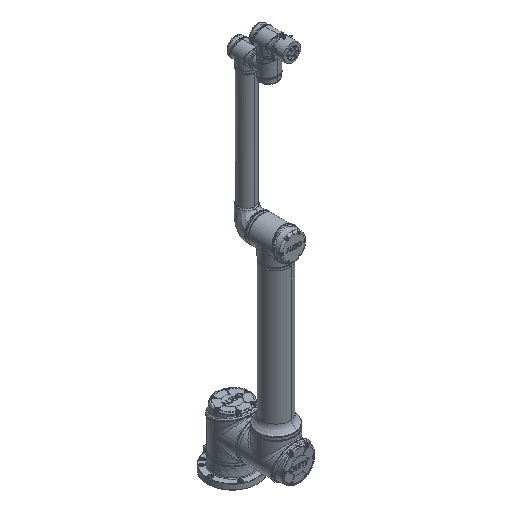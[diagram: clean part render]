
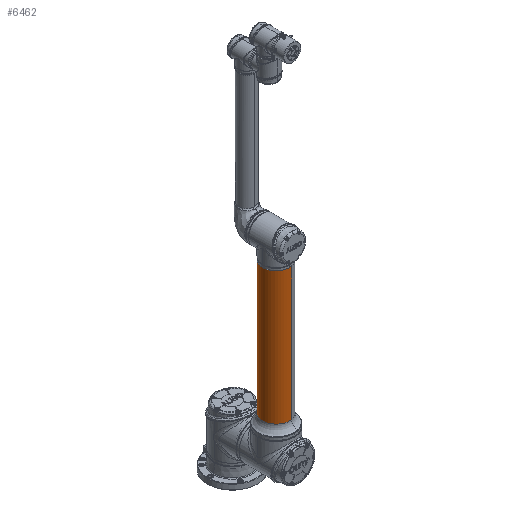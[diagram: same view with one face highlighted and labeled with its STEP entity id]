
A CAD part, isometric view. The second image highlights one B-rep face of the part: STEP entity #6462.
In plain terms, the highlighted cylindrical face has radius 76 mm (diameter 152 mm), a partial arc.
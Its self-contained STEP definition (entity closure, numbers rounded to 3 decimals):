
#6462 = ADVANCED_FACE ( 'NONE', ( #422118 ), #565446, .T. ) ;
#13139 = VECTOR ( 'NONE', #128164, 1000. ) ;
#55692 = CARTESIAN_POINT ( 'NONE',  ( -33.329, -14.152, -940.2 ) ) ;
#62391 = DIRECTION ( 'NONE',  ( 0., 0., 1. ) ) ;
#71881 = CARTESIAN_POINT ( 'NONE',  ( -182.671, 14.152, -113. ) ) ;
#105491 = AXIS2_PLACEMENT_3D ( 'NONE', #487597, #159456, #491170 ) ;
#111063 = EDGE_LOOP ( 'NONE', ( #500998, #514111, #181153, #362169 ) ) ;
#128164 = DIRECTION ( 'NONE',  ( 0., 0., -1. ) ) ;
#136482 = DIRECTION ( 'NONE',  ( 0., 0., 1. ) ) ;
#143702 = DIRECTION ( 'NONE',  ( -0.983, 0.186, 0. ) ) ;
#148199 = VECTOR ( 'NONE', #356138, 1000. ) ;
#154942 = CARTESIAN_POINT ( 'NONE',  ( -33.329, -14.152, -190. ) ) ;
#159456 = DIRECTION ( 'NONE',  ( 0., 0., -1. ) ) ;
#181153 = ORIENTED_EDGE ( 'NONE', *, *, #308509, .T. ) ;
#204417 = VERTEX_POINT ( 'NONE', #55692 ) ;
#239622 = LINE ( 'NONE', #71881, #148199 ) ;
#269203 = VERTEX_POINT ( 'NONE', #467630 ) ;
#308509 = EDGE_CURVE ( 'NONE', #269203, #491217, #239622, .T. ) ;
#356138 = DIRECTION ( 'NONE',  ( 0., 0., -1. ) ) ;
#362169 = ORIENTED_EDGE ( 'NONE', *, *, #527844, .T. ) ;
#369622 = CIRCLE ( 'NONE', #555904, 76. ) ;
#397741 = CARTESIAN_POINT ( 'NONE',  ( -108., 0., -940.2 ) ) ;
#398030 = CARTESIAN_POINT ( 'NONE',  ( -33.329, -14.152, -113. ) ) ;
#422118 = FACE_OUTER_BOUND ( 'NONE', #111063, .T. ) ;
#467630 = CARTESIAN_POINT ( 'NONE',  ( -182.671, 14.152, -190. ) ) ;
#487597 = CARTESIAN_POINT ( 'NONE',  ( -108., 0., -113. ) ) ;
#491170 = DIRECTION ( 'NONE',  ( -0.983, 0.186, 0. ) ) ;
#491217 = VERTEX_POINT ( 'NONE', #689748 ) ;
#498278 = EDGE_CURVE ( 'NONE', #640154, #204417, #616758, .T. ) ;
#500998 = ORIENTED_EDGE ( 'NONE', *, *, #498278, .F. ) ;
#514111 = ORIENTED_EDGE ( 'NONE', *, *, #690571, .F. ) ;
#527844 = EDGE_CURVE ( 'NONE', #491217, #204417, #658641, .T. ) ;
#555904 = AXIS2_PLACEMENT_3D ( 'NONE', #697654, #136482, #143702 ) ;
#565446 = CYLINDRICAL_SURFACE ( 'NONE', #105491, 76. ) ;
#565511 = AXIS2_PLACEMENT_3D ( 'NONE', #397741, #62391, #681835 ) ;
#616758 = LINE ( 'NONE', #398030, #13139 ) ;
#640154 = VERTEX_POINT ( 'NONE', #154942 ) ;
#658641 = CIRCLE ( 'NONE', #565511, 76. ) ;
#681835 = DIRECTION ( 'NONE',  ( -0.983, 0.186, 0. ) ) ;
#689748 = CARTESIAN_POINT ( 'NONE',  ( -182.671, 14.152, -940.2 ) ) ;
#690571 = EDGE_CURVE ( 'NONE', #269203, #640154, #369622, .T. ) ;
#697654 = CARTESIAN_POINT ( 'NONE',  ( -108., 0., -190. ) ) ;
